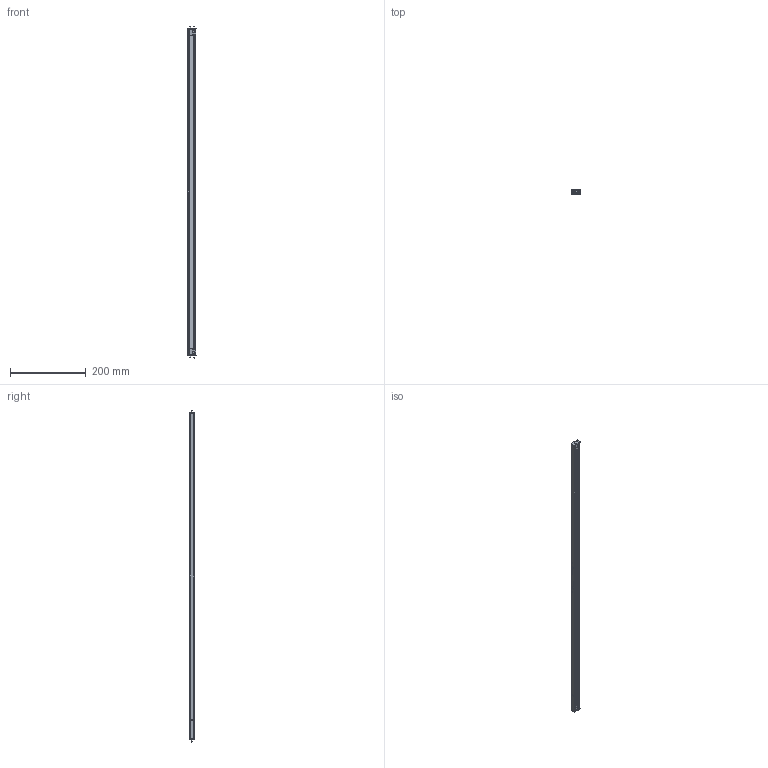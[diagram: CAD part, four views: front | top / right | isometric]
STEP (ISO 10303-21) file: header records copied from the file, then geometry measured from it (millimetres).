
FILE_DESCRIPTION (( 'STEP AP214' ), '1' );
FILE_NAME ('2000492 Kiton EDC 861 mm.STEP', '2022-11-04T07:31:01', ( '' ), ( '' ), 'SwSTEP 2.0', 'SolidWorks 2021', '' );
FILE_SCHEMA (( 'AUTOMOTIVE_DESIGN' ));
Length unit declared in the file: millimetre
Products named in the file (11): 2000492 Kiton EDC  861 mm; 6201093 Konsole rechts_861 mm.STEP; TESTATA_TESTATA SX.STEP; SUPPORTO TESTATA_SUPPORTO TESTATA DX.STEP; STRIP REEL 180 LED METRO 5.25mm.STEP; SENSORE PROG. PROXIMITY.STEP; sheet metal screws_din_Tapping screw DIN 7049-ST2.2x9.5-C-H-C.STEP; 6201094 PROFILO LAMPADA_861.STEP; SUPPORTO TESTATA_SUPPORTO TESTATA SX.STEP; TESTATA_TESTATA DX.STEP; VITE TS TORX 2x6.STEP
Assembly tree (20 placements, depth 2):
  2000492 Kiton EDC  861 mm
    6201094 PROFILO LAMPADA_861.STEP
    6201093 Konsole rechts_861 mm.STEP
    TESTATA_TESTATA DX.STEP
    TESTATA_TESTATA SX.STEP
    SUPPORTO TESTATA_SUPPORTO TESTATA DX.STEP
    SUPPORTO TESTATA_SUPPORTO TESTATA SX.STEP
    SENSORE PROG. PROXIMITY.STEP  x2
    STRIP REEL 180 LED METRO 5.25mm.STEP  x7
    sheet metal screws_din_Tapping screw DIN 7049-ST2.2x9.5-C-H-C.STEP  x4
    VITE TS TORX 2x6.STEP
Bounding box: 22.2 x 11.46 x 874.26 mm (x, y, z)
Volume: 95905.6 mm3; surface area: 135574 mm2
Topology: 20 solids, 20 shells, 1641 faces, 4494 edges, 2979 vertices
Faces by surface type: plane 1206, cylinder 317, bspline 83, sphere 16, cone 15, torus 4
Entity records: 40725 total; most frequent: CARTESIAN_POINT 15400, ORIENTED_EDGE 5350, DIRECTION 4311, EDGE_CURVE 2675, LINE 2003, VECTOR 2003, VERTEX_POINT 1776, AXIS2_PLACEMENT_3D 1154
